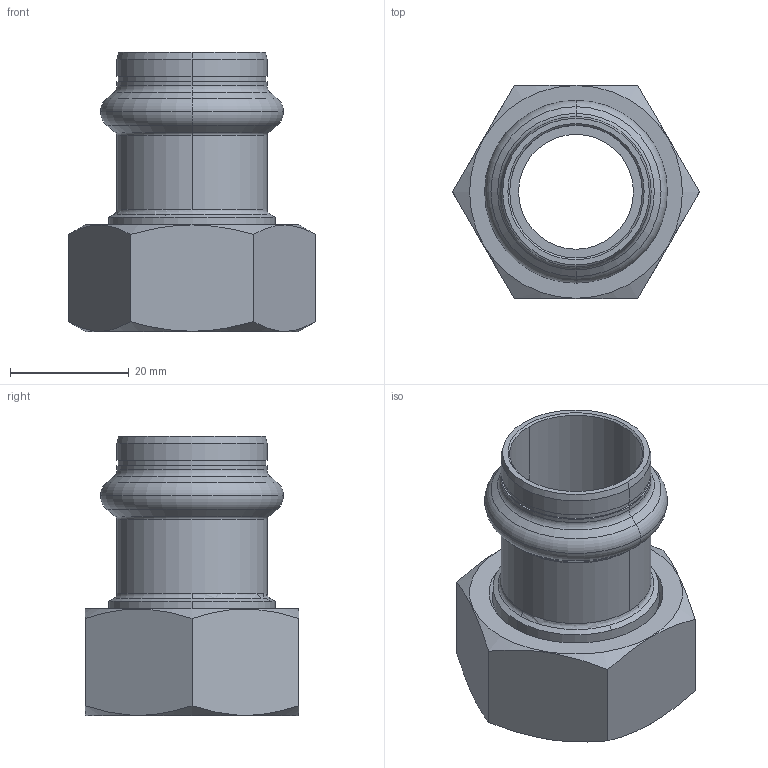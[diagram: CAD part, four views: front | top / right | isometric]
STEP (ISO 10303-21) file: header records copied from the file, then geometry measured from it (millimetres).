
FILE_DESCRIPTION(('CoCreate Modeling STEP Export'),'2;1');
FILE_NAME('8359GVW221.stp','2013-03-05T13:42:04',(''),(''),'CoCreate Modeling STEP processor for AP214 (Solid Model)','CoCreate Modeling 17.00A 17-Jun-2010 (C) Parametric Technology GmbH','');
FILE_SCHEMA(('AUTOMOTIVE_DESIGN { 1 0 10303 214 1 1 1 1 }'));
Length unit declared in the file: millimetre
Products named in the file (3): MOER; Wartelpuntstuk_C-pr_22x1.1; 8359GVW221
Assembly tree (2 placements, depth 2):
  8359GVW221
    Wartelpuntstuk_C-pr_22x1.1
    MOER
Bounding box: 41.57 x 36 x 47 mm (x, y, z)
Volume: 14772.2 mm3; surface area: 11184.3 mm2
Topology: 2 solids, 2 shells, 82 faces, 194 edges, 120 vertices
Faces by surface type: cylinder 28, cone 26, torus 14, plane 14
Entity records: 2876 total; most frequent: CARTESIAN_POINT 1204, ORIENTED_EDGE 388, DIRECTION 264, EDGE_CURVE 194, VERTEX_POINT 120, AXIS2_PLACEMENT_3D 102, EDGE_LOOP 90, FACE_OUTER_BOUND 82
